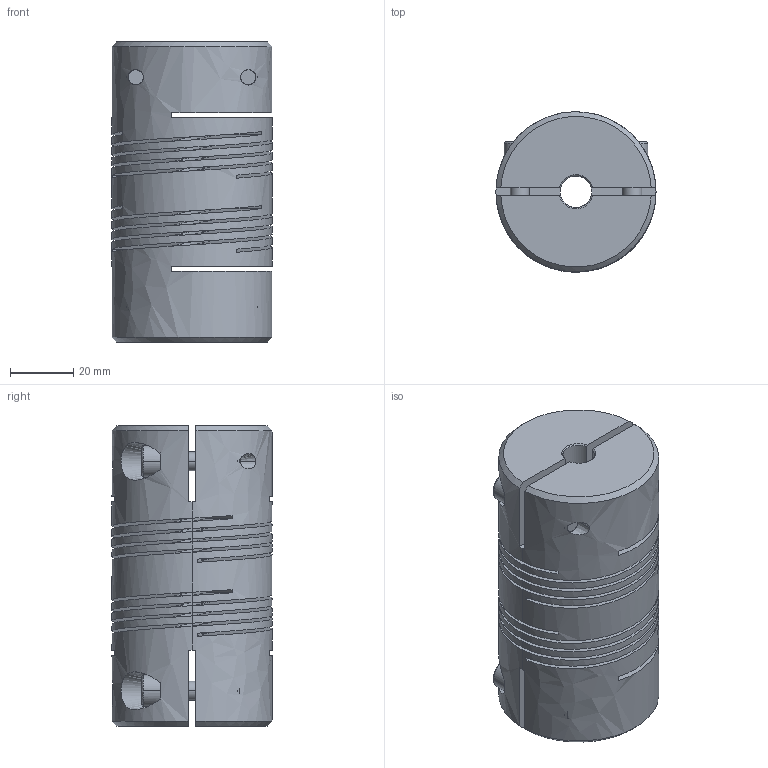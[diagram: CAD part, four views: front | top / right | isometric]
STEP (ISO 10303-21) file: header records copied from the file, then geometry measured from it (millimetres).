
FILE_DESCRIPTION((''),'2;1');
FILE_NAME('723_51','2026-02-24T',('SYSTEM'),(''),'PRO/ENGINEER BY PARAMETRIC TECHNOLOGY CORPORATION, 2016360','PRO/ENGINEER BY PARAMETRIC TECHNOLOGY CORPORATION, 2016360','');
FILE_SCHEMA(('AUTOMOTIVE_DESIGN { 1 0 10303 214 1 1 1 1 }'));
Length unit declared in the file: inch
Products named in the file (1): 723_51
Bounding box: 50.8 x 50.8 x 95.33 mm (x, y, z)
Volume: 149901.1 mm3; surface area: 62465 mm2
Topology: 1 solids, 7 shells, 195 faces, 565 edges, 377 vertices
Faces by surface type: bspline 195
Entity records: 14993 total; most frequent: CARTESIAN_POINT 9786, ORIENTED_EDGE 1102, EDGE_CURVE 557, B_SPLINE_CURVE_WITH_KNOTS 402, VERTEX_POINT 377, EDGE_LOOP 224, FACE_OUTER_BOUND 195, FILL_AREA_STYLE_COLOUR 195
